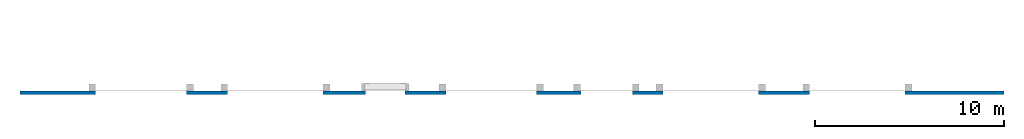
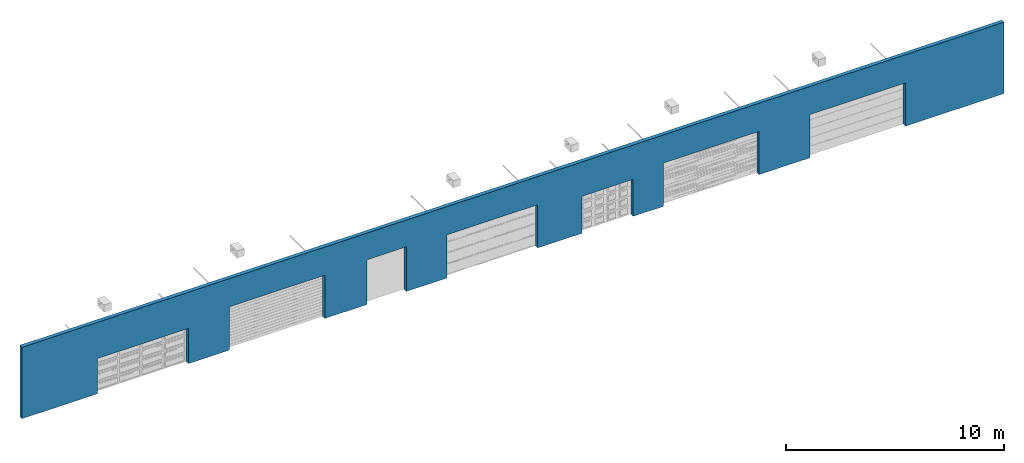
# One storey, part 1 of 4: 1 wall, 7 openings.
"""IFC2X3 building model written with IfcOpenShell, lengths in millimetres."""

import ifcopenshell
import ifcopenshell.guid

model = None  # the IFC model being written
_history = None  # IfcOwnerHistory: only IFC2X3 demands one
_inside = {}  # id of a spatial element -> (the spatial element, [elements in it])
_under = {}  # id of a project, library or spatial element -> (it, [spatial elements below it])
_declared = {}  # id of a project -> (the project, [libraries it declares])
_typed = {}  # id of a type object -> (the type object, [elements of that type])
_made_of = {}  # id of a material, layer set ... -> (it, [elements and type objects made of it])


def new_model(schema):
    """Start an empty IFC model of exactly this schema.

    Asked for "IFC4X3", IfcOpenShell would pick the latest addendum, in which some entities
    have other attributes; the version numbers below select the first issue.
    IFC2X3 requires an IfcOwnerHistory on every rooted entity: one is made here for all.
    """
    global model, _history
    if schema == "IFC4X3":
        model = ifcopenshell.file(schema_version=(4, 3, 0, 0))
    else:
        model = ifcopenshell.file(schema=schema)
    _inside.clear()
    _under.clear()
    _declared.clear()
    _typed.clear()
    _made_of.clear()
    _history = None
    if model.schema == "IFC2X3":
        org = make("IfcOrganization", Name="unknown")
        user = make(
            "IfcPersonAndOrganization",
            ThePerson=make("IfcPerson", FamilyName="unknown"),
            TheOrganization=org,
        )
        app = make(
            "IfcApplication",
            ApplicationDeveloper=org,
            Version="unknown",
            ApplicationFullName="unknown",
            ApplicationIdentifier="unknown",
        )
        _history = make(
            "IfcOwnerHistory",
            OwningUser=user,
            OwningApplication=app,
            ChangeAction="ADDED",
            CreationDate=0,
        )
    return model


def make(cls, **values):
    """One entity of the class cls with the attributes given. An attribute that is None is left unset."""
    return model.create_entity(
        cls, **{name: value for name, value in values.items() if value is not None}
    )


def entity(cls, *values):
    """Any entity or typed value of the class cls, its attributes in the order of the schema. None: left unset."""
    e = model.create_entity(cls)
    for i, value in enumerate(values):
        if value is not None:
            e[i] = value
    return e


def rooted(cls, **values):
    """An entity with a GlobalId (a new one), such as an element, a storey or a relation."""
    return make(cls, GlobalId=ifcopenshell.guid.new(), OwnerHistory=_history, **values)


def si_unit(unit_type, name, prefix=None):
    """IfcSIUnit, for example si_unit("LENGTHUNIT", "METRE", prefix="MILLI")."""
    return make("IfcSIUnit", UnitType=unit_type, Prefix=prefix, Name=name)


def converted_unit(unit_type, name, factor, base, dimensions=None, offset=None):
    """IfcConversionBasedUnit, such as the inch: factor (a typed value) times the base unit."""
    return make(
        "IfcConversionBasedUnit"
        if offset is None
        else "IfcConversionBasedUnitWithOffset",
        ConversionOffset=offset,
        Dimensions=None
        if dimensions is None
        else entity("IfcDimensionalExponents", *dimensions),
        UnitType=unit_type,
        Name=name,
        ConversionFactor=make(
            "IfcMeasureWithUnit", ValueComponent=factor, UnitComponent=base
        ),
    )


def derived_unit(unit_type, elements):
    """IfcDerivedUnit: a product of units, each with its exponent."""
    return make(
        "IfcDerivedUnit",
        Elements=[
            make("IfcDerivedUnitElement", Unit=unit, Exponent=power)
            for unit, power in elements
        ],
        UnitType=unit_type,
    )


def assignment(units):
    """IfcUnitAssignment: the units of a project."""
    return None if units is None else make("IfcUnitAssignment", Units=units)


def point(xyz):
    """IfcCartesianPoint."""
    return None if xyz is None else make("IfcCartesianPoint", Coordinates=xyz)


def direction(xyz):
    """IfcDirection."""
    return None if xyz is None else make("IfcDirection", DirectionRatios=xyz)


def frame(location, z_axis=None, x_axis=None):
    """IfcAxis2Placement3D, a coordinate frame: its origin and axes. An axis left out is left unset."""
    return make(
        "IfcAxis2Placement3D",
        Location=point(location),
        Axis=direction(z_axis),
        RefDirection=direction(x_axis),
    )


def frame_2d(location, x_axis=None):
    """IfcAxis2Placement2D, a coordinate frame in the plane: its origin and x axis."""
    return make(
        "IfcAxis2Placement2D", Location=point(location), RefDirection=direction(x_axis)
    )


def origin():
    """The frame at (0, 0, 0) with its axes left unset."""
    return frame((0.0, 0.0, 0.0))


def place(relative_to, where):
    """IfcLocalPlacement: puts the frame where relative to a parent placement (None: the world)."""
    return make(
        "IfcLocalPlacement", PlacementRelTo=relative_to, RelativePlacement=where
    )


def context(
    kind, dimensions, precision=None, world=None, true_north=None, identifier=None
):
    """IfcGeometricRepresentationContext, for example the 3D "Model" context."""
    return make(
        "IfcGeometricRepresentationContext",
        ContextIdentifier=identifier,
        ContextType=kind,
        CoordinateSpaceDimension=dimensions,
        Precision=precision,
        WorldCoordinateSystem=world,
        TrueNorth=true_north,
    )


def subcontext(parent, identifier, kind, view, scale=None):
    """IfcGeometricRepresentationSubContext, for example "Body" below "Model"."""
    return make(
        "IfcGeometricRepresentationSubContext",
        ContextIdentifier=identifier,
        ContextType=kind,
        ParentContext=parent,
        TargetScale=scale,
        TargetView=view,
    )


def project(units=None, contexts=None):
    """IfcProject with its units and contexts."""
    return rooted(
        "IfcProject",
        Name="project",
        RepresentationContexts=contexts,
        UnitsInContext=assignment(units),
    )


def spatial(cls, under=None, at=None, **own):
    """A site, building, storey or space (cls), placed at a placement, below another one or the project."""
    s = rooted(cls, ObjectPlacement=at, **own)
    if under is not None:
        _under.setdefault(under.id(), (under, []))[1].append(s)
    return s


def profile(cls, at=None, kind="AREA", **sizes):
    """A parametric profile (cls). Its sizes go by their IFC names, for example OverallWidth=200.0."""
    return make(cls, ProfileType=kind, Position=at, **sizes)


def rectangle(**sizes):
    """IfcRectangleProfileDef."""
    return profile("IfcRectangleProfileDef", **sizes)


def extrude(swept, where, along, depth):
    """IfcExtrudedAreaSolid: the profile swept, set in the frame where, extruded along a direction by depth."""
    return make(
        "IfcExtrudedAreaSolid",
        SweptArea=swept,
        Position=where,
        ExtrudedDirection=direction(along),
        Depth=depth,
    )


def shape(context_of_items, identifier, shape_type, items):
    """IfcShapeRepresentation: the items that make up one representation, for example the "Body"."""
    return make(
        "IfcShapeRepresentation",
        ContextOfItems=context_of_items,
        RepresentationIdentifier=identifier,
        RepresentationType=shape_type,
        Items=items,
    )


def material(Name=None, Category=None):
    """IfcMaterial."""
    return make("IfcMaterial", Name=Name, Category=Category)


def layer(
    of_material, thickness, ventilated=None, Name=None, Category=None, Priority=None
):
    """IfcMaterialLayer: one layer of a wall or slab, of a material (None: an air gap)."""
    return make(
        "IfcMaterialLayer",
        Material=of_material,
        LayerThickness=thickness,
        IsVentilated=ventilated,
        Name=Name,
        Category=Category,
        Priority=Priority,
    )


def layer_set(layers, Name=None):
    """IfcMaterialLayerSet."""
    return make("IfcMaterialLayerSet", MaterialLayers=layers, LayerSetName=Name)


def layer_usage(for_layer_set, set_direction, sense, offset, extent=None):
    """IfcMaterialLayerSetUsage: how a layer set lies in its element."""
    return make(
        "IfcMaterialLayerSetUsage",
        ForLayerSet=for_layer_set,
        LayerSetDirection=set_direction,
        DirectionSense=sense,
        OffsetFromReferenceLine=offset,
        ReferenceExtent=extent,
    )


def made_of(thing, what):
    """Note that an element or type object is made of a material, layer set ...; save() writes the relation."""
    if what is not None:
        _made_of.setdefault(what.id(), (what, []))[1].append(thing)
    return thing


def type_object(cls, material=None, **own):
    """A type object (cls), such as IfcWallType, which elements share."""
    return made_of(rooted(cls, **own), material)


def element(
    cls,
    number,
    at=None,
    inside=None,
    cuts=None,
    type_object=None,
    material=None,
    context=None,
    identifier="Body",
    shape_type=None,
    held_by="IfcProductDefinitionShape",
    body=None,
    shapes=None,
    **own,
):
    """One element of the class cls, such as IfcWall. Its Tag is "e" and its number.

    at: its placement. inside: the storey or other place that contains it. cuts: it is an
    opening in that element (IfcRelVoidsElement). A single representation is given by context,
    identifier, shape_type and body (its items); several are given by shapes. held_by: the class
    of the entity that holds the representations. save() writes the other relations.
    """
    e = rooted(cls, Tag="e%d" % number, ObjectPlacement=at, **own)
    if body is not None:
        shapes = [shape(context, identifier, shape_type, body)]
    if shapes is not None:
        e.Representation = make(held_by, Representations=shapes)
    if inside is not None:
        _inside.setdefault(inside.id(), (inside, []))[1].append(e)
    if cuts is not None:
        rooted(
            "IfcRelVoidsElement", RelatingBuildingElement=cuts, RelatedOpeningElement=e
        )
    if type_object is not None:
        _typed.setdefault(type_object.id(), (type_object, []))[1].append(e)
    return made_of(e, material)


def aggregate(whole, parts):
    """IfcRelAggregates: a whole, such as a stair, and the parts it consists of."""
    return rooted("IfcRelAggregates", RelatingObject=whole, RelatedObjects=parts)


def save(model, path):
    """Write the relations noted so far, then the file.

    IfcRelAggregates (storeys below a building ...), IfcRelContainedInSpatialStructure (elements
    in a storey), IfcRelDefinesByType, IfcRelAssociatesMaterial and IfcRelDeclares: one each for
    every whole, place, type object, material and project.
    """
    for whole, parts in _under.values():
        aggregate(whole, parts)
    for where, things in _inside.values():
        rooted(
            "IfcRelContainedInSpatialStructure",
            RelatedElements=things,
            RelatingStructure=where,
        )
    for kind, things in _typed.values():
        rooted("IfcRelDefinesByType", RelatedObjects=things, RelatingType=kind)
    for what, things in _made_of.values():
        rooted("IfcRelAssociatesMaterial", RelatedObjects=things, RelatingMaterial=what)
    for by, libraries in _declared.values():
        rooted("IfcRelDeclares", RelatingContext=by, RelatedDefinitions=libraries)
    model.write(path)


model = new_model("IFC2X3")

# Units and contexts
model_context = context("Model", 3, precision=0.01, world=origin(), true_north=direction((6.12303176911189e-17, 1.0)))
body_context = subcontext(model_context, "Body", "Model", "MODEL_VIEW")
ifc_project = project(units=[si_unit("LENGTHUNIT", "METRE", prefix="MILLI"), si_unit("AREAUNIT", "SQUARE_METRE"), si_unit("VOLUMEUNIT", "CUBIC_METRE"), converted_unit("PLANEANGLEUNIT", "DEGREE", entity("IfcRatioMeasure", 0.0174532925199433), si_unit("PLANEANGLEUNIT", "RADIAN"), dimensions=[0, 0, 0, 0, 0, 0, 0]), si_unit("MASSUNIT", "GRAM", prefix="KILO"), si_unit("TIMEUNIT", "SECOND"), si_unit("FREQUENCYUNIT", "HERTZ"), si_unit("THERMODYNAMICTEMPERATUREUNIT", "DEGREE_CELSIUS"), derived_unit("THERMALTRANSMITTANCEUNIT", [(si_unit("MASSUNIT", "GRAM", prefix="KILO"), 1), (si_unit("THERMODYNAMICTEMPERATUREUNIT", "KELVIN"), -1), (si_unit("TIMEUNIT", "SECOND"), -3)]), derived_unit("VOLUMETRICFLOWRATEUNIT", [(si_unit("LENGTHUNIT", "METRE"), 3), (si_unit("TIMEUNIT", "SECOND"), -1)]), si_unit("ELECTRICCURRENTUNIT", "AMPERE"), si_unit("ELECTRICVOLTAGEUNIT", "VOLT"), si_unit("POWERUNIT", "WATT"), si_unit("FORCEUNIT", "NEWTON", prefix="KILO"), si_unit("ILLUMINANCEUNIT", "LUX"), si_unit("LUMINOUSFLUXUNIT", "LUMEN"), si_unit("LUMINOUSINTENSITYUNIT", "CANDELA"), derived_unit("USERDEFINED", [(si_unit("MASSUNIT", "GRAM", prefix="KILO"), -1), (si_unit("LENGTHUNIT", "METRE"), -2), (si_unit("TIMEUNIT", "SECOND"), 3), (si_unit("LUMINOUSFLUXUNIT", "LUMEN"), 1)]), derived_unit("LINEARVELOCITYUNIT", [(si_unit("LENGTHUNIT", "METRE"), 1), (si_unit("TIMEUNIT", "SECOND"), -1)]), si_unit("PRESSUREUNIT", "PASCAL"), derived_unit("USERDEFINED", [(si_unit("LENGTHUNIT", "METRE"), -2), (si_unit("MASSUNIT", "GRAM", prefix="KILO"), 1), (si_unit("TIMEUNIT", "SECOND"), -2)])], contexts=[model_context])

# Site, building, storey
site_placement = place(None, origin())
site = spatial("IfcSite", under=ifc_project, at=site_placement, Name="Default", CompositionType="ELEMENT")
building_placement = place(site_placement, origin())
building = spatial("IfcBuilding", under=site, at=building_placement, CompositionType="ELEMENT")
storey_placement = place(building_placement, origin())
storey = spatial("IfcBuildingStorey", under=building, at=storey_placement, Name="Level 1", CompositionType="ELEMENT", Elevation=0.0)

# Wall, openings
ifc_material = material(Name="Default Wall")
ifc_layer = layer(ifc_material, 200.0)
ifc_layer_set = layer_set([ifc_layer], Name="Basic Wall:Wall 1")
ifc_layer_usage = layer_usage(ifc_layer_set, "AXIS2", "NEGATIVE", 100.0)
wall_type = type_object("IfcWallType", Name="Basic Wall:Wall 1", PredefinedType="STANDARD", material=ifc_layer_set)
wall_placement = place(storey_placement, frame((-2331.13804004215, 2294.25711275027, 0.0)))
wall = element("IfcWallStandardCase", 1, at=wall_placement, inside=storey, type_object=wall_type, material=ifc_layer_usage, Name="Basic Wall:Wall 1:2445", ObjectType="Basic Wall:Wall 1:1557", context=body_context, shape_type="SweptSolid", body=[
    extrude(rectangle(XDim=52000.0, YDim=200.0, at=frame_2d((26000.0, -5.6843418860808e-14), x_axis=(-1.0, 0.0))), origin(), (0.0, 0.0, 1.0), 4000.0),
])
opening_1_placement = place(wall_placement, frame((3995.0, -100.0, 0.0)))
element("IfcOpeningElement", 2, at=opening_1_placement, cuts=wall, Name="Door-Garage-Steel Line-Sectional-Ranch:21.27 PLD:8716:1", ObjectType="Opening", context=body_context, shape_type="SweptSolid", body=[
    extrude(rectangle(XDim=1969.99999999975, YDim=4810.0, at=frame_2d((984.999999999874, 2405.0), x_axis=(1.0, 0.0))), frame((0.0, 0.0, 0.0), z_axis=(0.0, 1.0, 0.0), x_axis=(0.0, 0.0, 1.0)), (0.0, 0.0, 1.0), 200.0),
])
opening_2_placement = place(wall_placement, frame((10975.0, -100.0, 0.0)))
element("IfcOpeningElement", 3, at=opening_2_placement, cuts=wall, Name="Door-Garage-Steel Line-Sectional-Slim Line:24.505PLD:1", ObjectType="Opening", context=body_context, shape_type="SweptSolid", body=[
    extrude(rectangle(XDim=2419.99999999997, YDim=5050.0, at=frame_2d((1209.99999999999, 2525.0), x_axis=(1.0, 0.0))), frame((0.0, 0.0, 0.0), z_axis=(0.0, 1.0, 0.0), x_axis=(0.0, 0.0, 1.0)), (0.0, 0.0, 1.0), 200.0),
])
opening_3_placement = place(wall_placement, frame((20350.0, 100.0, 0.0)))
element("IfcOpeningElement", 4, at=opening_3_placement, cuts=wall, Name="Door-Roller-Steel Line-Standard:Standard:1", ObjectType="Opening", context=body_context, shape_type="SweptSolid", body=[
    extrude(rectangle(XDim=2500.0, YDim=2100.0, at=frame_2d((1250.0, 1050.0), x_axis=(1.0, 0.0))), frame((0.0, 0.0, 0.0), z_axis=(0.0, -1.0, 0.0), x_axis=(0.0, 0.0, 1.0)), (0.0, 0.0, 1.0), 200.0),
])
opening_4_placement = place(wall_placement, frame((22500.0, -100.0, 0.0)))
element("IfcOpeningElement", 5, at=opening_4_placement, cuts=wall, Name="Door-Garage-Steel Line-Sectional-Inspirations:24.505PLD:1", ObjectType="Opening", context=body_context, shape_type="SweptSolid", body=[
    extrude(rectangle(XDim=2419.99999999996, YDim=4800.0, at=frame_2d((1209.99999999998, 2400.0), x_axis=(1.0, 0.0))), frame((0.0, 0.0, 0.0), z_axis=(0.0, 1.0, 0.0), x_axis=(0.0, 0.0, 1.0)), (0.0, 0.0, 1.0), 200.0),
])
opening_5_placement = place(wall_placement, frame((29645.0, -100.0, 0.0)))
element("IfcOpeningElement", 6, at=opening_5_placement, cuts=wall, Name="Door-Garage-Steel Line-Sectional-Heritage:21.27 PLD:1", ObjectType="Opening", context=body_context, shape_type="SweptSolid", body=[
    extrude(rectangle(XDim=2069.99999999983, YDim=2710.0, at=frame_2d((1034.99999999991, 1355.0), x_axis=(1.0, 0.0))), frame((0.0, 0.0, 0.0), z_axis=(0.0, 1.0, 0.0), x_axis=(0.0, 0.0, 1.0)), (0.0, 0.0, 1.0), 200.0),
])
opening_6_placement = place(wall_placement, frame((33975.0, -100.0, 0.0)))
element("IfcOpeningElement", 7, at=opening_6_placement, cuts=wall, Name="Door-Garage-Steel Line-Sectional-Glacier:24.505PLD:1", ObjectType="Opening", context=body_context, shape_type="SweptSolid", body=[
    extrude(rectangle(XDim=2419.99999999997, YDim=5050.0, at=frame_2d((1209.99999999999, 2525.00000000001), x_axis=(1.0, 0.0))), frame((0.0, 0.0, 0.0), z_axis=(0.0, 1.0, 0.0), x_axis=(0.0, 0.0, 1.0)), (0.0, 0.0, 1.0), 200.0),
])
opening_7_placement = place(wall_placement, frame((41725.0, -100.0, 0.0)))
element("IfcOpeningElement", 8, at=opening_7_placement, cuts=wall, Name="Door-Garage-Steel Line-Sectional-Flat Line:24.505PLD:1", ObjectType="Opening", context=body_context, shape_type="SweptSolid", body=[
    extrude(rectangle(XDim=2419.99999999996, YDim=5050.0, at=frame_2d((1209.99999999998, 2525.0), x_axis=(1.0, 0.0))), frame((0.0, 0.0, 0.0), z_axis=(0.0, 1.0, 0.0), x_axis=(0.0, 0.0, 1.0)), (0.0, 0.0, 1.0), 200.0),
])

save(model, "model.ifc")
